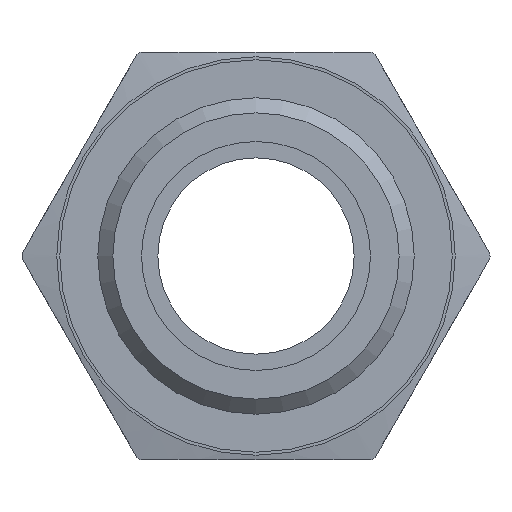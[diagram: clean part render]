
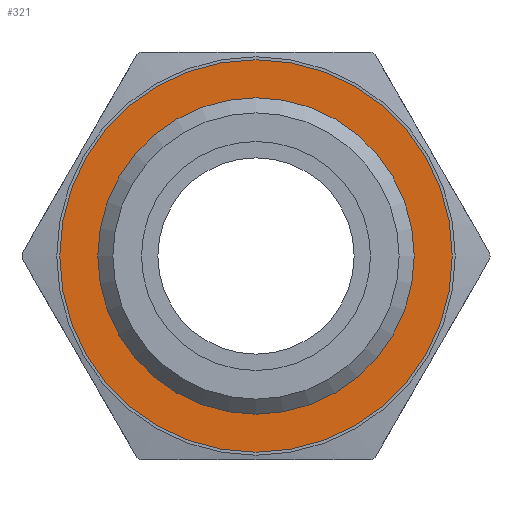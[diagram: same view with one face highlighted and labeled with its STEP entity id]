
A CAD part, left-side view. The second image highlights one B-rep face of the part: STEP entity #321.
In plain terms, the highlighted planar face has unit normal (-1, 0, 0).
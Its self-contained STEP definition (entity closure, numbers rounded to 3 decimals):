
#201=PLANE('',#1153);
#321=ADVANCED_FACE('',(#384,#385),#201,.F.);
#384=FACE_BOUND('',#467,.T.);
#385=FACE_BOUND('',#468,.T.);
#467=EDGE_LOOP('',(#690));
#468=EDGE_LOOP('',(#691));
#690=ORIENTED_EDGE('',*,*,#976,.F.);
#691=ORIENTED_EDGE('',*,*,#977,.T.);
#855=VERTEX_POINT('',#1772);
#856=VERTEX_POINT('',#1774);
#976=EDGE_CURVE('',#855,#855,#1051,.T.);
#977=EDGE_CURVE('',#856,#856,#1052,.T.);
#1051=CIRCLE('',#1151,13.);
#1052=CIRCLE('',#1152,9.2);
#1151=AXIS2_PLACEMENT_3D('',#1771,#1394,#1395);
#1152=AXIS2_PLACEMENT_3D('',#1773,#1396,#1397);
#1153=AXIS2_PLACEMENT_3D('',#1775,#1398,#1399);
#1394=DIRECTION('',(1.,0.,0.));
#1395=DIRECTION('',(0.,1.,0.));
#1396=DIRECTION('',(1.,0.,0.));
#1397=DIRECTION('',(0.,1.,0.));
#1398=DIRECTION('',(1.,0.,0.));
#1399=DIRECTION('',(0.,1.,0.));
#1771=CARTESIAN_POINT('',(14.,0.,0.));
#1772=CARTESIAN_POINT('',(14.,13.,0.));
#1773=CARTESIAN_POINT('',(14.,0.,0.));
#1774=CARTESIAN_POINT('',(14.,9.2,0.));
#1775=CARTESIAN_POINT('',(14.,9.2,0.));
